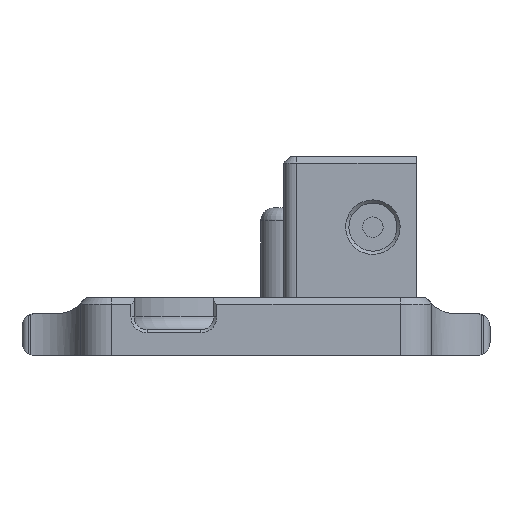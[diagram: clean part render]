
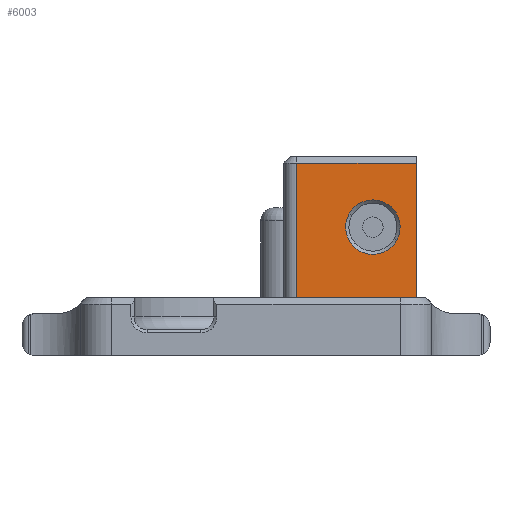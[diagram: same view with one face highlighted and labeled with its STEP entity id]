
A CAD part, front view. The second image highlights one B-rep face of the part: STEP entity #6003.
In plain terms, the highlighted planar face has unit normal (0, -1, 0).
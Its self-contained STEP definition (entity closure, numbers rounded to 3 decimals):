
#5977=AXIS2_PLACEMENT_3D('Plane Axis2P3D',#5974,#5975,#5976) ;
#5987=AXIS2_PLACEMENT_3D('Circle Axis2P3D',#5985,#5986,$) ;
#5996=AXIS2_PLACEMENT_3D('Circle Axis2P3D',#5994,#5995,$) ;
#3096=CARTESIAN_POINT('Vertex',(6.355,-23.9,30.)) ;
#3130=CARTESIAN_POINT('Line Origine',(14.675,-23.9,30.)) ;
#3134=CARTESIAN_POINT('Vertex',(24.995,-23.9,30.)) ;
#3181=CARTESIAN_POINT('Vertex',(6.355,-23.9,9.)) ;
#3184=CARTESIAN_POINT('Line Origine',(6.355,-23.9,20.)) ;
#5545=CARTESIAN_POINT('Line Origine',(24.995,-23.9,19.5)) ;
#5549=CARTESIAN_POINT('Vertex',(24.995,-23.9,9.)) ;
#5693=CARTESIAN_POINT('Line Origine',(15.675,-23.9,9.)) ;
#5974=CARTESIAN_POINT('Axis2P3D Location',(24.995,-23.9,9.)) ;
#5985=CARTESIAN_POINT('Axis2P3D Location',(18.235,-23.9,20.)) ;
#5989=CARTESIAN_POINT('Vertex',(21.965,-23.9,17.962)) ;
#5991=CARTESIAN_POINT('Vertex',(14.506,-23.9,22.038)) ;
#5994=CARTESIAN_POINT('Axis2P3D Location',(18.235,-23.9,20.)) ;
#3131=DIRECTION('Vector Direction',(1.,0.,0.)) ;
#3185=DIRECTION('Vector Direction',(0.,0.,1.)) ;
#5546=DIRECTION('Vector Direction',(0.,0.,1.)) ;
#5694=DIRECTION('Vector Direction',(-1.,0.,0.)) ;
#5975=DIRECTION('Axis2P3D Direction',(0.,1.,-0.)) ;
#5976=DIRECTION('Axis2P3D XDirection',(-1.,0.,0.)) ;
#5986=DIRECTION('Axis2P3D Direction',(0.,1.,-0.)) ;
#5995=DIRECTION('Axis2P3D Direction',(0.,1.,-0.)) ;
#3132=VECTOR('Line Direction',#3131,1.) ;
#3186=VECTOR('Line Direction',#3185,1.) ;
#5547=VECTOR('Line Direction',#5546,1.) ;
#5695=VECTOR('Line Direction',#5694,1.) ;
#5980=ORIENTED_EDGE('',*,*,#3136,.F.) ;
#5981=ORIENTED_EDGE('',*,*,#3188,.F.) ;
#5982=ORIENTED_EDGE('',*,*,#5697,.T.) ;
#5983=ORIENTED_EDGE('',*,*,#5551,.T.) ;
#6000=ORIENTED_EDGE('',*,*,#5993,.T.) ;
#6001=ORIENTED_EDGE('',*,*,#5998,.T.) ;
#6002=FACE_BOUND('',#5999,.T.) ;
#6003=ADVANCED_FACE('Inserti',(#5984,#6002),#5978,.F.) ;
#5988=CIRCLE('generated circle',#5987,4.25) ;
#5997=CIRCLE('generated circle',#5996,4.25) ;
#3136=EDGE_CURVE('',#3097,#3135,#3133,.T.) ;
#3188=EDGE_CURVE('',#3182,#3097,#3187,.T.) ;
#5551=EDGE_CURVE('',#5550,#3135,#5548,.T.) ;
#5697=EDGE_CURVE('',#3182,#5550,#5696,.F.) ;
#5993=EDGE_CURVE('',#5990,#5992,#5988,.T.) ;
#5998=EDGE_CURVE('',#5992,#5990,#5997,.T.) ;
#5979=EDGE_LOOP('',(#5980,#5981,#5982,#5983)) ;
#5999=EDGE_LOOP('',(#6000,#6001)) ;
#5984=FACE_OUTER_BOUND('',#5979,.T.) ;
#3133=LINE('Line',#3130,#3132) ;
#3187=LINE('Line',#3184,#3186) ;
#5548=LINE('Line',#5545,#5547) ;
#5696=LINE('Line',#5693,#5695) ;
#5978=PLANE('',#5977) ;
#3097=VERTEX_POINT('',#3096) ;
#3135=VERTEX_POINT('',#3134) ;
#3182=VERTEX_POINT('',#3181) ;
#5550=VERTEX_POINT('',#5549) ;
#5990=VERTEX_POINT('',#5989) ;
#5992=VERTEX_POINT('',#5991) ;
